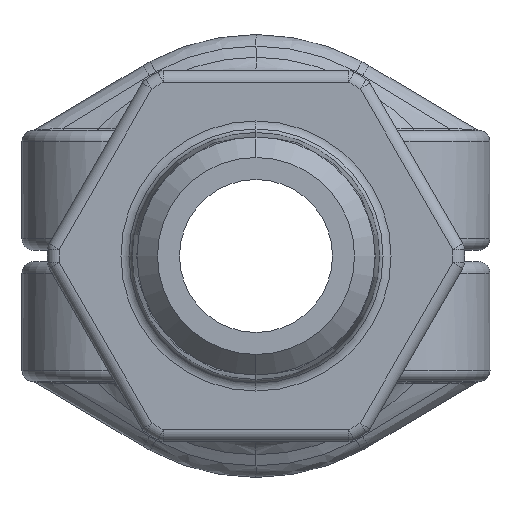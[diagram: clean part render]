
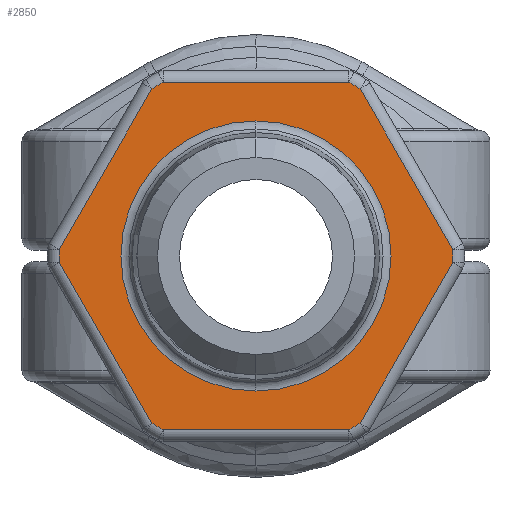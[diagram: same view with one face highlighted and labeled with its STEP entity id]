
A CAD part, left-side view. The second image highlights one B-rep face of the part: STEP entity #2850.
In plain terms, the highlighted planar face has unit normal (-1, 0, 0).
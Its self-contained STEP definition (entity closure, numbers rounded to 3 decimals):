
#742=DIRECTION('',(0.,-1.,0.));
#743=VECTOR('',#742,16.238);
#744=CARTESIAN_POINT('',(-44.146,8.119,-15.223));
#745=LINE('',#744,#743);
#931=DIRECTION('',(0.,1.,0.));
#932=VECTOR('',#931,16.238);
#933=CARTESIAN_POINT('',(-44.146,-8.119,15.223));
#934=LINE('',#933,#932);
#1040=DIRECTION('',(0.,-0.5,0.866));
#1041=VECTOR('',#1040,16.238);
#1042=CARTESIAN_POINT('',(-44.146,17.243,0.58));
#1043=LINE('',#1042,#1041);
#1047=CARTESIAN_POINT('',(-44.146,0.,0.));
#1048=DIRECTION('',(1.,0.,0.));
#1049=DIRECTION('',(0.,0.529,0.849));
#1050=AXIS2_PLACEMENT_3D('',#1047,#1048,#1049);
#1055=CARTESIAN_POINT('',(-44.146,0.,0.));
#1056=DIRECTION('',(1.,0.,0.));
#1057=DIRECTION('',(0.,-0.471,0.882));
#1058=AXIS2_PLACEMENT_3D('',#1055,#1056,#1057);
#1063=DIRECTION('',(0.,-0.5,-0.866));
#1064=VECTOR('',#1063,16.238);
#1065=CARTESIAN_POINT('',(-44.146,-9.124,14.642));
#1066=LINE('',#1065,#1064);
#1070=CARTESIAN_POINT('',(-44.146,0.,0.));
#1071=DIRECTION('',(1.,0.,0.));
#1072=DIRECTION('',(0.,-0.999,0.034));
#1073=AXIS2_PLACEMENT_3D('',#1070,#1071,#1072);
#1078=DIRECTION('',(0.,0.5,-0.866));
#1079=VECTOR('',#1078,16.238);
#1080=CARTESIAN_POINT('',(-44.146,-17.243,-0.58));
#1081=LINE('',#1080,#1079);
#1085=CARTESIAN_POINT('',(-44.146,0.,0.));
#1086=DIRECTION('',(1.,0.,0.));
#1087=DIRECTION('',(0.,-0.529,-0.849));
#1088=AXIS2_PLACEMENT_3D('',#1085,#1086,#1087);
#1093=CARTESIAN_POINT('',(-44.146,0.,0.));
#1094=DIRECTION('',(1.,0.,0.));
#1095=DIRECTION('',(0.,0.471,-0.882));
#1096=AXIS2_PLACEMENT_3D('',#1093,#1094,#1095);
#1101=DIRECTION('',(0.,0.5,0.866));
#1102=VECTOR('',#1101,16.238);
#1103=CARTESIAN_POINT('',(-44.146,9.124,-14.642));
#1104=LINE('',#1103,#1102);
#1108=CARTESIAN_POINT('',(-44.146,0.,0.));
#1109=DIRECTION('',(1.,0.,0.));
#1110=DIRECTION('',(0.,0.999,-0.034));
#1111=AXIS2_PLACEMENT_3D('',#1108,#1109,#1110);
#1116=CARTESIAN_POINT('',(-44.146,0.,0.));
#1117=DIRECTION('',(-1.,0.,0.));
#1118=DIRECTION('',(0.,0.,-1.));
#1119=AXIS2_PLACEMENT_3D('',#1116,#1117,#1118);
#1124=CARTESIAN_POINT('',(-44.146,0.,0.));
#1125=DIRECTION('',(-1.,0.,0.));
#1126=DIRECTION('',(0.,0.,1.));
#1127=AXIS2_PLACEMENT_3D('',#1124,#1125,#1126);
#1735=CARTESIAN_POINT('',(-44.146,-17.243,-0.58));
#1736=VERTEX_POINT('',#1735);
#1737=CARTESIAN_POINT('',(-44.146,-9.124,-14.642));
#1738=VERTEX_POINT('',#1737);
#1739=CARTESIAN_POINT('',(-44.146,-8.119,-15.223));
#1740=VERTEX_POINT('',#1739);
#1741=CARTESIAN_POINT('',(-44.146,8.119,-15.223));
#1742=VERTEX_POINT('',#1741);
#1743=CARTESIAN_POINT('',(-44.146,9.124,-14.642));
#1744=VERTEX_POINT('',#1743);
#1745=CARTESIAN_POINT('',(-44.146,17.243,-0.58));
#1746=VERTEX_POINT('',#1745);
#1747=CARTESIAN_POINT('',(-44.146,17.243,0.58));
#1748=VERTEX_POINT('',#1747);
#1749=CARTESIAN_POINT('',(-44.146,9.124,14.642));
#1750=VERTEX_POINT('',#1749);
#1751=CARTESIAN_POINT('',(-44.146,8.119,15.223));
#1752=VERTEX_POINT('',#1751);
#1753=CARTESIAN_POINT('',(-44.146,-8.119,15.223));
#1754=VERTEX_POINT('',#1753);
#1755=CARTESIAN_POINT('',(-44.146,-9.124,14.642));
#1756=VERTEX_POINT('',#1755);
#1757=CARTESIAN_POINT('',(-44.146,-17.243,0.58));
#1758=VERTEX_POINT('',#1757);
#1759=CARTESIAN_POINT('',(-44.146,0.,-11.832));
#1760=CARTESIAN_POINT('',(-44.146,0.,11.832));
#1761=VERTEX_POINT('',#1759);
#1762=VERTEX_POINT('',#1760);
#2825=CARTESIAN_POINT('',(-44.146,18.267,0.));
#2826=DIRECTION('',(1.,0.,0.));
#2827=DIRECTION('',(0.,0.,-1.));
#2828=AXIS2_PLACEMENT_3D('',#2825,#2826,#2827);
#2829=PLANE('',#2828);
#2830=ORIENTED_EDGE('',*,*,#2689,.T.);
#2831=ORIENTED_EDGE('',*,*,#2715,.T.);
#2832=ORIENTED_EDGE('',*,*,#2741,.F.);
#2833=ORIENTED_EDGE('',*,*,#2767,.T.);
#2834=ORIENTED_EDGE('',*,*,#2793,.T.);
#2835=ORIENTED_EDGE('',*,*,#2818,.T.);
#2836=ORIENTED_EDGE('',*,*,#2535,.T.);
#2837=ORIENTED_EDGE('',*,*,#2561,.T.);
#2838=ORIENTED_EDGE('',*,*,#2587,.F.);
#2839=ORIENTED_EDGE('',*,*,#2613,.T.);
#2840=ORIENTED_EDGE('',*,*,#2639,.T.);
#2841=ORIENTED_EDGE('',*,*,#2665,.T.);
#2842=EDGE_LOOP('',(#2830,#2831,#2832,#2833,#2834,#2835,#2836,#2837,#2838,#2839,
#2840,#2841));
#2843=FACE_OUTER_BOUND('',#2842,.F.);
#2845=ORIENTED_EDGE('',*,*,#2844,.T.);
#2847=ORIENTED_EDGE('',*,*,#2846,.T.);
#2848=EDGE_LOOP('',(#2845,#2847));
#2849=FACE_BOUND('',#2848,.F.);
#1051=CIRCLE('',#1050,17.252);
#1059=CIRCLE('',#1058,17.252);
#1074=CIRCLE('',#1073,17.252);
#1089=CIRCLE('',#1088,17.252);
#1097=CIRCLE('',#1096,17.252);
#1112=CIRCLE('',#1111,17.252);
#1120=CIRCLE('',#1119,11.832);
#1128=CIRCLE('',#1127,11.832);
#2535=EDGE_CURVE('',#1736,#1738,#1081,.T.);
#2561=EDGE_CURVE('',#1738,#1740,#1089,.T.);
#2587=EDGE_CURVE('',#1742,#1740,#745,.T.);
#2613=EDGE_CURVE('',#1742,#1744,#1097,.T.);
#2639=EDGE_CURVE('',#1744,#1746,#1104,.T.);
#2665=EDGE_CURVE('',#1746,#1748,#1112,.T.);
#2689=EDGE_CURVE('',#1748,#1750,#1043,.T.);
#2715=EDGE_CURVE('',#1750,#1752,#1051,.T.);
#2741=EDGE_CURVE('',#1754,#1752,#934,.T.);
#2767=EDGE_CURVE('',#1754,#1756,#1059,.T.);
#2793=EDGE_CURVE('',#1756,#1758,#1066,.T.);
#2818=EDGE_CURVE('',#1758,#1736,#1074,.T.);
#2844=EDGE_CURVE('',#1761,#1762,#1120,.T.);
#2846=EDGE_CURVE('',#1762,#1761,#1128,.T.);
#2850=ADVANCED_FACE('',(#2843,#2849),#2829,.F.);
